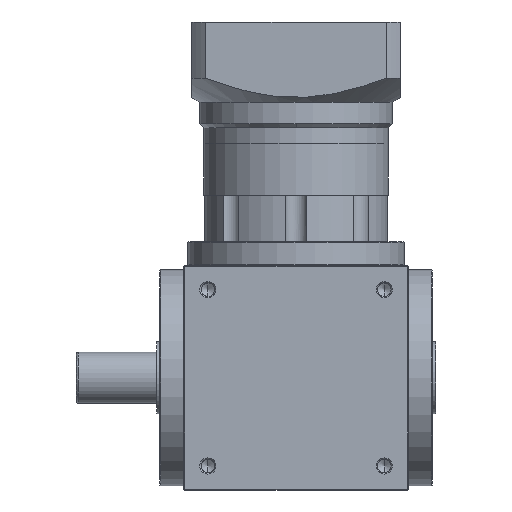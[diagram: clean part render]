
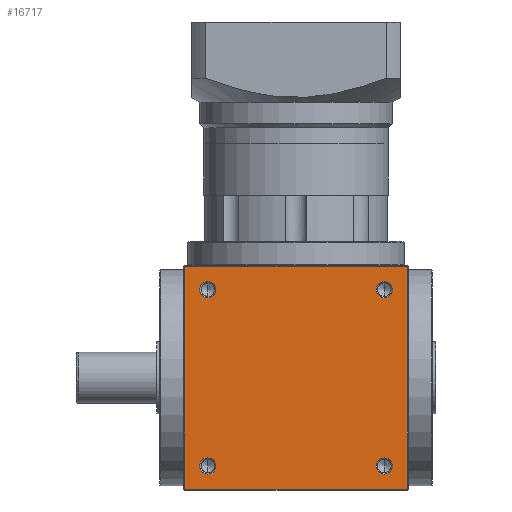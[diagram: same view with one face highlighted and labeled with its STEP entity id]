
A CAD part, front view. The second image highlights one B-rep face of the part: STEP entity #16717.
In plain terms, the highlighted planar face has unit normal (0, -1, 0).
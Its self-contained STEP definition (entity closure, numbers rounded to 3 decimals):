
#300 = VERTEX_POINT ( 'NONE', #15046 ) ;
#312 = DIRECTION ( 'NONE',  ( 0., 0., -1. ) ) ;
#737 = VERTEX_POINT ( 'NONE', #2418 ) ;
#1466 = EDGE_CURVE ( 'NONE', #31250, #5763, #34249, .T. ) ;
#1520 = VECTOR ( 'NONE', #28427, 1000. ) ;
#1601 = VERTEX_POINT ( 'NONE', #36720 ) ;
#1658 = AXIS2_PLACEMENT_3D ( 'NONE', #9935, #39202, #14217 ) ;
#1716 = DIRECTION ( 'NONE',  ( 0., 0., -1. ) ) ;
#1862 = CIRCLE ( 'NONE', #31784, 5.025 ) ;
#2418 = CARTESIAN_POINT ( 'NONE',  ( -55., -70., 119.975 ) ) ;
#2419 = CIRCLE ( 'NONE', #48121, 5.025 ) ;
#2479 = CARTESIAN_POINT ( 'NONE',  ( -70., -70., 140. ) ) ;
#2612 = VERTEX_POINT ( 'NONE', #15971 ) ;
#3688 = EDGE_CURVE ( 'NONE', #300, #32734, #45590, .T. ) ;
#4400 = CARTESIAN_POINT ( 'NONE',  ( -55., -70., 125. ) ) ;
#4827 = ORIENTED_EDGE ( 'NONE', *, *, #28367, .F. ) ;
#5082 = FACE_BOUND ( 'NONE', #21972, .T. ) ;
#5763 = VERTEX_POINT ( 'NONE', #27047 ) ;
#5804 = ORIENTED_EDGE ( 'NONE', *, *, #14505, .F. ) ;
#6277 = EDGE_CURVE ( 'NONE', #32734, #300, #2419, .T. ) ;
#6394 = FACE_BOUND ( 'NONE', #31172, .T. ) ;
#6548 = PLANE ( 'NONE',  #37115 ) ;
#6719 = CARTESIAN_POINT ( 'NONE',  ( -69.5, -70., 139.5 ) ) ;
#6732 = DIRECTION ( 'NONE',  ( 0., 0., 1. ) ) ;
#6806 = EDGE_LOOP ( 'NONE', ( #31706, #45191 ) ) ;
#7012 = EDGE_CURVE ( 'NONE', #2612, #53849, #37811, .T. ) ;
#8664 = LINE ( 'NONE', #22742, #21239 ) ;
#8665 = DIRECTION ( 'NONE',  ( 0., 0., -1. ) ) ;
#8908 = ORIENTED_EDGE ( 'NONE', *, *, #41710, .F. ) ;
#9849 = CIRCLE ( 'NONE', #18070, 5.025 ) ;
#9935 = CARTESIAN_POINT ( 'NONE',  ( 55., -70., 15. ) ) ;
#10287 = VERTEX_POINT ( 'NONE', #53404 ) ;
#10605 = LINE ( 'NONE', #14573, #42598 ) ;
#11468 = CIRCLE ( 'NONE', #45077, 5.025 ) ;
#13747 = CIRCLE ( 'NONE', #1658, 5.025 ) ;
#14217 = DIRECTION ( 'NONE',  ( 0., 0., -1. ) ) ;
#14505 = EDGE_CURVE ( 'NONE', #26587, #10287, #10605, .T. ) ;
#14573 = CARTESIAN_POINT ( 'NONE',  ( -70., -70., 139.5 ) ) ;
#15046 = CARTESIAN_POINT ( 'NONE',  ( 55., -70., 130.025 ) ) ;
#15971 = CARTESIAN_POINT ( 'NONE',  ( 69.5, -70., 0.5 ) ) ;
#16717 = ADVANCED_FACE ( 'NONE', ( #5082, #38528, #37221, #6394, #26202 ), #6548, .F. ) ;
#16863 = EDGE_LOOP ( 'NONE', ( #29911, #4827 ) ) ;
#16993 = VECTOR ( 'NONE', #45570, 1000. ) ;
#17435 = EDGE_LOOP ( 'NONE', ( #31833, #48567, #5804, #8908 ) ) ;
#17958 = VERTEX_POINT ( 'NONE', #41717 ) ;
#18070 = AXIS2_PLACEMENT_3D ( 'NONE', #51677, #26990, #1716 ) ;
#18581 = DIRECTION ( 'NONE',  ( 0., -1., 0. ) ) ;
#20054 = CARTESIAN_POINT ( 'NONE',  ( 69.5, -70., 140. ) ) ;
#20310 = CARTESIAN_POINT ( 'NONE',  ( 55., -70., 125. ) ) ;
#20380 = DIRECTION ( 'NONE',  ( 0., -1., 0. ) ) ;
#20438 = DIRECTION ( 'NONE',  ( 0., 0., -1. ) ) ;
#20487 = EDGE_CURVE ( 'NONE', #737, #1601, #28426, .T. ) ;
#21239 = VECTOR ( 'NONE', #43377, 1000. ) ;
#21972 = EDGE_LOOP ( 'NONE', ( #26664, #43122 ) ) ;
#22742 = CARTESIAN_POINT ( 'NONE',  ( -69.5, -70., 140. ) ) ;
#22755 = AXIS2_PLACEMENT_3D ( 'NONE', #41149, #41085, #41015 ) ;
#24025 = LINE ( 'NONE', #20054, #1520 ) ;
#25037 = EDGE_CURVE ( 'NONE', #5763, #31250, #9849, .T. ) ;
#25100 = VERTEX_POINT ( 'NONE', #43791 ) ;
#25646 = DIRECTION ( 'NONE',  ( 0., -1., 0. ) ) ;
#26202 = FACE_OUTER_BOUND ( 'NONE', #17435, .T. ) ;
#26587 = VERTEX_POINT ( 'NONE', #6719 ) ;
#26664 = ORIENTED_EDGE ( 'NONE', *, *, #6277, .F. ) ;
#26777 = ORIENTED_EDGE ( 'NONE', *, *, #25037, .F. ) ;
#26990 = DIRECTION ( 'NONE',  ( 0., -1., 0. ) ) ;
#27047 = CARTESIAN_POINT ( 'NONE',  ( -55., -70., 9.975 ) ) ;
#28367 = EDGE_CURVE ( 'NONE', #1601, #737, #1862, .T. ) ;
#28426 = CIRCLE ( 'NONE', #46654, 5.025 ) ;
#28427 = DIRECTION ( 'NONE',  ( 0., 0., -1. ) ) ;
#28802 = CARTESIAN_POINT ( 'NONE',  ( 55., -70., 119.975 ) ) ;
#29911 = ORIENTED_EDGE ( 'NONE', *, *, #20487, .F. ) ;
#31172 = EDGE_LOOP ( 'NONE', ( #26777, #34834 ) ) ;
#31250 = VERTEX_POINT ( 'NONE', #49822 ) ;
#31706 = ORIENTED_EDGE ( 'NONE', *, *, #39967, .F. ) ;
#31784 = AXIS2_PLACEMENT_3D ( 'NONE', #4400, #33788, #8665 ) ;
#31833 = ORIENTED_EDGE ( 'NONE', *, *, #7012, .F. ) ;
#31909 = DIRECTION ( 'NONE',  ( 0., 1., 0. ) ) ;
#32734 = VERTEX_POINT ( 'NONE', #28802 ) ;
#33788 = DIRECTION ( 'NONE',  ( 0., -1., 0. ) ) ;
#34249 = CIRCLE ( 'NONE', #44846, 5.025 ) ;
#34834 = ORIENTED_EDGE ( 'NONE', *, *, #1466, .F. ) ;
#36720 = CARTESIAN_POINT ( 'NONE',  ( -55., -70., 130.025 ) ) ;
#37115 = AXIS2_PLACEMENT_3D ( 'NONE', #2479, #31909, #6732 ) ;
#37221 = FACE_BOUND ( 'NONE', #6806, .T. ) ;
#37811 = LINE ( 'NONE', #45510, #16993 ) ;
#38528 = FACE_BOUND ( 'NONE', #16863, .T. ) ;
#39202 = DIRECTION ( 'NONE',  ( 0., -1., 0. ) ) ;
#39546 = DIRECTION ( 'NONE',  ( 1., 0., 0. ) ) ;
#39967 = EDGE_CURVE ( 'NONE', #17958, #25100, #11468, .T. ) ;
#41015 = DIRECTION ( 'NONE',  ( 0., 0., -1. ) ) ;
#41085 = DIRECTION ( 'NONE',  ( 0., -1., 0. ) ) ;
#41149 = CARTESIAN_POINT ( 'NONE',  ( 55., -70., 125. ) ) ;
#41710 = EDGE_CURVE ( 'NONE', #53849, #26587, #8664, .T. ) ;
#41717 = CARTESIAN_POINT ( 'NONE',  ( 55., -70., 9.975 ) ) ;
#42186 = DIRECTION ( 'NONE',  ( 0., 0., -1. ) ) ;
#42243 = DIRECTION ( 'NONE',  ( 0., -1., 0. ) ) ;
#42260 = CARTESIAN_POINT ( 'NONE',  ( -55., -70., 15. ) ) ;
#42598 = VECTOR ( 'NONE', #39546, 1000. ) ;
#43122 = ORIENTED_EDGE ( 'NONE', *, *, #3688, .F. ) ;
#43377 = DIRECTION ( 'NONE',  ( 0., 0., 1. ) ) ;
#43418 = CARTESIAN_POINT ( 'NONE',  ( 55., -70., 15. ) ) ;
#43791 = CARTESIAN_POINT ( 'NONE',  ( 55., -70., 20.025 ) ) ;
#44846 = AXIS2_PLACEMENT_3D ( 'NONE', #42260, #42243, #42186 ) ;
#45077 = AXIS2_PLACEMENT_3D ( 'NONE', #43418, #18581, #47519 ) ;
#45191 = ORIENTED_EDGE ( 'NONE', *, *, #50785, .F. ) ;
#45510 = CARTESIAN_POINT ( 'NONE',  ( -70., -70., 0.5 ) ) ;
#45570 = DIRECTION ( 'NONE',  ( -1., 0., 0. ) ) ;
#45590 = CIRCLE ( 'NONE', #22755, 5.025 ) ;
#46654 = AXIS2_PLACEMENT_3D ( 'NONE', #50338, #25646, #312 ) ;
#47519 = DIRECTION ( 'NONE',  ( 0., 0., -1. ) ) ;
#48121 = AXIS2_PLACEMENT_3D ( 'NONE', #20310, #20380, #20438 ) ;
#48567 = ORIENTED_EDGE ( 'NONE', *, *, #48906, .F. ) ;
#48906 = EDGE_CURVE ( 'NONE', #10287, #2612, #24025, .T. ) ;
#49822 = CARTESIAN_POINT ( 'NONE',  ( -55., -70., 20.025 ) ) ;
#50338 = CARTESIAN_POINT ( 'NONE',  ( -55., -70., 125. ) ) ;
#50785 = EDGE_CURVE ( 'NONE', #25100, #17958, #13747, .T. ) ;
#50903 = CARTESIAN_POINT ( 'NONE',  ( -69.5, -70., 0.5 ) ) ;
#51677 = CARTESIAN_POINT ( 'NONE',  ( -55., -70., 15. ) ) ;
#53404 = CARTESIAN_POINT ( 'NONE',  ( 69.5, -70., 139.5 ) ) ;
#53849 = VERTEX_POINT ( 'NONE', #50903 ) ;
